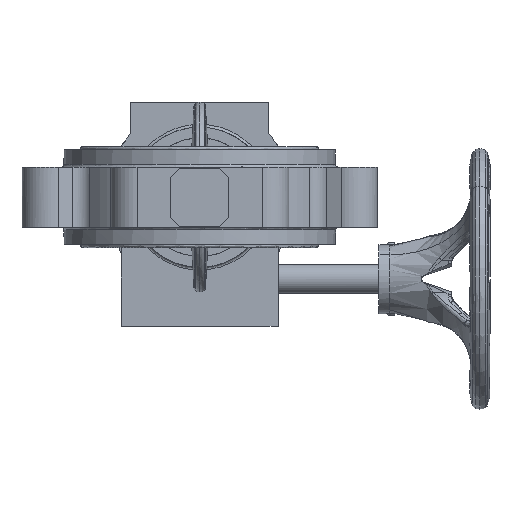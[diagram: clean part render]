
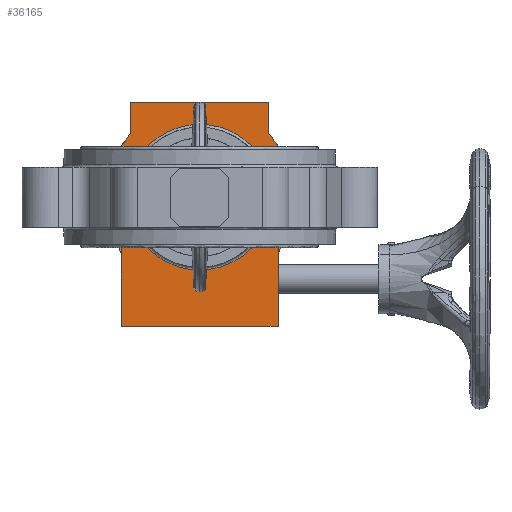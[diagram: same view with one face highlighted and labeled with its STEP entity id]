
A CAD part, front view. The second image highlights one B-rep face of the part: STEP entity #36165.
In plain terms, the highlighted planar face has unit normal (0, -1, 0).
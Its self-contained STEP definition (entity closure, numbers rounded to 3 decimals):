
#36 = ORIENTED_EDGE ( 'NONE', *, *, #54684, .F. ) ;
#1054 = VERTEX_POINT ( 'NONE', #66081 ) ;
#1293 = CARTESIAN_POINT ( 'NONE',  ( 0.383, 186., 39.998 ) ) ;
#1303 = LINE ( 'NONE', #18980, #65710 ) ;
#2718 = EDGE_CURVE ( 'NONE', #59855, #83585, #96590, .T. ) ;
#4304 = CARTESIAN_POINT ( 'NONE',  ( -79.24, 186., 40. ) ) ;
#5885 = CARTESIAN_POINT ( 'NONE',  ( 0., 186., -40. ) ) ;
#5955 = ORIENTED_EDGE ( 'NONE', *, *, #78123, .F. ) ;
#6674 = ORIENTED_EDGE ( 'NONE', *, *, #55431, .F. ) ;
#6974 = AXIS2_PLACEMENT_3D ( 'NONE', #70720, #93091, #61551 ) ;
#11058 = DIRECTION ( 'NONE',  ( 0., 0., -1. ) ) ;
#11796 = CARTESIAN_POINT ( 'NONE',  ( 43., 186., -28.342 ) ) ;
#11953 = CARTESIAN_POINT ( 'NONE',  ( 0., 186., 40. ) ) ;
#12378 = CARTESIAN_POINT ( 'NONE',  ( -38., 186., 0. ) ) ;
#12680 = ORIENTED_EDGE ( 'NONE', *, *, #51400, .F. ) ;
#12956 = CARTESIAN_POINT ( 'NONE',  ( -43., 186., -28.342 ) ) ;
#15348 = EDGE_CURVE ( 'NONE', #98242, #23922, #44538, .T. ) ;
#16131 = CARTESIAN_POINT ( 'NONE',  ( 79.24, 186., -40. ) ) ;
#16168 = VECTOR ( 'NONE', #28760, 1000. ) ;
#16226 = ORIENTED_EDGE ( 'NONE', *, *, #15348, .F. ) ;
#18370 = EDGE_LOOP ( 'NONE', ( #63372, #40123, #6674, #12680, #92771, #71503, #5955, #36 ) ) ;
#18980 = CARTESIAN_POINT ( 'NONE',  ( 0., 186., -71. ) ) ;
#19153 = VECTOR ( 'NONE', #44020, 1000. ) ;
#20273 = CARTESIAN_POINT ( 'NONE',  ( 0., 186., 0. ) ) ;
#20974 = FACE_BOUND ( 'NONE', #32540, .T. ) ;
#21236 =( BOUNDED_CURVE ( )  B_SPLINE_CURVE ( 3, ( #87645, #16131, #56026, #95241 ),
 .UNSPECIFIED., .F., .T. ) 
 B_SPLINE_CURVE_WITH_KNOTS ( ( 4, 4 ),
 ( 0., 0.997 ),
 .UNSPECIFIED. ) 
 CURVE ( )  GEOMETRIC_REPRESENTATION_ITEM ( )  RATIONAL_B_SPLINE_CURVE ( ( 1., 0.337, 0.337, 1. ) ) 
 REPRESENTATION_ITEM ( '' )  );
#23922 = VERTEX_POINT ( 'NONE', #74280 ) ;
#24321 = VERTEX_POINT ( 'NONE', #95276 ) ;
#24748 = DIRECTION ( 'NONE',  ( -1., 0., 0. ) ) ;
#26072 = CARTESIAN_POINT ( 'NONE',  ( 38., 186., 34.76 ) ) ;
#26258 = VECTOR ( 'NONE', #69155, 1000. ) ;
#28251 = LINE ( 'NONE', #12378, #55154 ) ;
#28760 = DIRECTION ( 'NONE',  ( 0., 0., 1. ) ) ;
#29858 = EDGE_CURVE ( 'NONE', #100670, #59855, #98051, .T. ) ;
#32540 = EDGE_LOOP ( 'NONE', ( #16226, #99882, #71799, #43002 ) ) ;
#34335 = CARTESIAN_POINT ( 'NONE',  ( 38., 186., 0. ) ) ;
#34579 = VERTEX_POINT ( 'NONE', #5885 ) ;
#36165 = ADVANCED_FACE ( 'NONE', ( #20974, #68494 ), #91871, .F. ) ;
#36949 = CARTESIAN_POINT ( 'NONE',  ( -43., 186., 0. ) ) ;
#40123 = ORIENTED_EDGE ( 'NONE', *, *, #29858, .F. ) ;
#41208 = CARTESIAN_POINT ( 'NONE',  ( 0., 186., 40. ) ) ;
#42512 = VERTEX_POINT ( 'NONE', #1293 ) ;
#43002 = ORIENTED_EDGE ( 'NONE', *, *, #86085, .F. ) ;
#43789 = DIRECTION ( 'NONE',  ( 0., 1., 0. ) ) ;
#44020 = DIRECTION ( 'NONE',  ( 0., 0., -1. ) ) ;
#44538 =( BOUNDED_CURVE ( )  B_SPLINE_CURVE ( 3, ( #11953, #4304, #66714, #97695 ),
 .UNSPECIFIED., .F., .T. ) 
 B_SPLINE_CURVE_WITH_KNOTS ( ( 4, 4 ),
 ( 0., 0.997 ),
 .UNSPECIFIED. ) 
 CURVE ( )  GEOMETRIC_REPRESENTATION_ITEM ( )  RATIONAL_B_SPLINE_CURVE ( ( 1., 0.337, 0.337, 1. ) ) 
 REPRESENTATION_ITEM ( '' )  );
#48327 = CARTESIAN_POINT ( 'NONE',  ( -0.256, 186., -39.999 ) ) ;
#49948 = CIRCLE ( 'NONE', #95465, 51.5 ) ;
#50148 = CARTESIAN_POINT ( 'NONE',  ( -38., 186., 34.76 ) ) ;
#51400 = EDGE_CURVE ( 'NONE', #91975, #24321, #28251, .T. ) ;
#51763 = LINE ( 'NONE', #36949, #16168 ) ;
#54684 = EDGE_CURVE ( 'NONE', #83585, #1054, #100682, .T. ) ;
#55154 = VECTOR ( 'NONE', #74758, 1000. ) ;
#55431 = EDGE_CURVE ( 'NONE', #24321, #100670, #80314, .T. ) ;
#56026 = CARTESIAN_POINT ( 'NONE',  ( 79.619, 186., 39.239 ) ) ;
#56178 = DIRECTION ( 'NONE',  ( 0., 1., 0. ) ) ;
#56342 = CARTESIAN_POINT ( 'NONE',  ( 0., 186., 52. ) ) ;
#57778 = CARTESIAN_POINT ( 'NONE',  ( 0., 186., 40. ) ) ;
#59855 = VERTEX_POINT ( 'NONE', #26072 ) ;
#59875 = CARTESIAN_POINT ( 'NONE',  ( -43., 186., -71. ) ) ;
#60473 = CARTESIAN_POINT ( 'NONE',  ( 43., 186., 0. ) ) ;
#61551 = DIRECTION ( 'NONE',  ( 0., 0., 1. ) ) ;
#62542 = VERTEX_POINT ( 'NONE', #59875 ) ;
#63372 = ORIENTED_EDGE ( 'NONE', *, *, #2718, .F. ) ;
#63706 = CARTESIAN_POINT ( 'NONE',  ( -0.383, 186., -39.998 ) ) ;
#63879 = DIRECTION ( 'NONE',  ( 0., 0., 1. ) ) ;
#64057 = DIRECTION ( 'NONE',  ( 1., 0., 0. ) ) ;
#64145 = CARTESIAN_POINT ( 'NONE',  ( 38., 186., 52. ) ) ;
#65364 = EDGE_CURVE ( 'NONE', #34579, #42512, #21236, .T. ) ;
#65710 = VECTOR ( 'NONE', #24748, 1000. ) ;
#66081 = CARTESIAN_POINT ( 'NONE',  ( 43., 186., -71. ) ) ;
#66714 = CARTESIAN_POINT ( 'NONE',  ( -79.619, 186., -39.239 ) ) ;
#68494 = FACE_OUTER_BOUND ( 'NONE', #18370, .T. ) ;
#68756 = AXIS2_PLACEMENT_3D ( 'NONE', #78143, #56178, #63879 ) ;
#69155 = DIRECTION ( 'NONE',  ( 0., 0., -1. ) ) ;
#70720 = CARTESIAN_POINT ( 'NONE',  ( 0., 186., 0. ) ) ;
#71503 = ORIENTED_EDGE ( 'NONE', *, *, #91780, .F. ) ;
#71799 = ORIENTED_EDGE ( 'NONE', *, *, #65364, .F. ) ;
#72650 = EDGE_CURVE ( 'NONE', #72917, #91975, #49948, .T. ) ;
#72917 = VERTEX_POINT ( 'NONE', #12956 ) ;
#74280 = CARTESIAN_POINT ( 'NONE',  ( -0.383, 186., -39.998 ) ) ;
#74758 = DIRECTION ( 'NONE',  ( 0., 0., 1. ) ) ;
#75567 =( BOUNDED_CURVE ( )  B_SPLINE_CURVE ( 3, ( #97451, #96946, #81717, #57778 ),
 .UNSPECIFIED., .F., .T. ) 
 B_SPLINE_CURVE_WITH_KNOTS ( ( 4, 4 ),
 ( 0.997, 1. ),
 .UNSPECIFIED. ) 
 CURVE ( )  GEOMETRIC_REPRESENTATION_ITEM ( )  RATIONAL_B_SPLINE_CURVE ( ( 1., 1., 1., 1. ) ) 
 REPRESENTATION_ITEM ( '' )  );
#78123 = EDGE_CURVE ( 'NONE', #1054, #62542, #1303, .T. ) ;
#78143 = CARTESIAN_POINT ( 'NONE',  ( 0., 186., 0. ) ) ;
#80314 = LINE ( 'NONE', #56342, #96227 ) ;
#81717 = CARTESIAN_POINT ( 'NONE',  ( 0.128, 186., 40. ) ) ;
#83585 = VERTEX_POINT ( 'NONE', #11796 ) ;
#85587 = CARTESIAN_POINT ( 'NONE',  ( 0., 186., -40. ) ) ;
#86085 = EDGE_CURVE ( 'NONE', #23922, #34579, #94836, .T. ) ;
#87645 = CARTESIAN_POINT ( 'NONE',  ( 0., 186., -40. ) ) ;
#91780 = EDGE_CURVE ( 'NONE', #62542, #72917, #51763, .T. ) ;
#91871 = PLANE ( 'NONE',  #68756 ) ;
#91975 = VERTEX_POINT ( 'NONE', #50148 ) ;
#92771 = ORIENTED_EDGE ( 'NONE', *, *, #72650, .F. ) ;
#93091 = DIRECTION ( 'NONE',  ( 0., 1., 0. ) ) ;
#93348 = EDGE_CURVE ( 'NONE', #42512, #98242, #75567, .T. ) ;
#94701 = CARTESIAN_POINT ( 'NONE',  ( -0.128, 186., -40. ) ) ;
#94836 =( BOUNDED_CURVE ( )  B_SPLINE_CURVE ( 3, ( #63706, #48327, #94701, #85587 ),
 .UNSPECIFIED., .F., .T. ) 
 B_SPLINE_CURVE_WITH_KNOTS ( ( 4, 4 ),
 ( 0.997, 1. ),
 .UNSPECIFIED. ) 
 CURVE ( )  GEOMETRIC_REPRESENTATION_ITEM ( )  RATIONAL_B_SPLINE_CURVE ( ( 1., 1., 1., 1. ) ) 
 REPRESENTATION_ITEM ( '' )  );
#95241 = CARTESIAN_POINT ( 'NONE',  ( 0.383, 186., 39.998 ) ) ;
#95276 = CARTESIAN_POINT ( 'NONE',  ( -38., 186., 52. ) ) ;
#95465 = AXIS2_PLACEMENT_3D ( 'NONE', #20273, #43789, #11058 ) ;
#96227 = VECTOR ( 'NONE', #64057, 1000. ) ;
#96590 = CIRCLE ( 'NONE', #6974, 51.5 ) ;
#96946 = CARTESIAN_POINT ( 'NONE',  ( 0.256, 186., 39.999 ) ) ;
#97451 = CARTESIAN_POINT ( 'NONE',  ( 0.383, 186., 39.998 ) ) ;
#97695 = CARTESIAN_POINT ( 'NONE',  ( -0.383, 186., -39.998 ) ) ;
#98051 = LINE ( 'NONE', #34335, #19153 ) ;
#98242 = VERTEX_POINT ( 'NONE', #41208 ) ;
#99882 = ORIENTED_EDGE ( 'NONE', *, *, #93348, .F. ) ;
#100670 = VERTEX_POINT ( 'NONE', #64145 ) ;
#100682 = LINE ( 'NONE', #60473, #26258 ) ;
